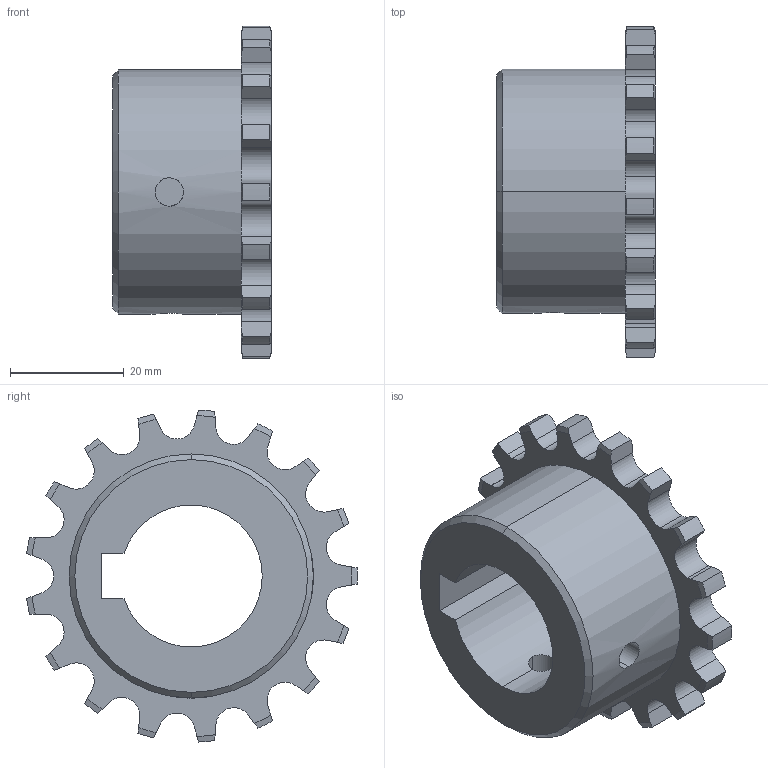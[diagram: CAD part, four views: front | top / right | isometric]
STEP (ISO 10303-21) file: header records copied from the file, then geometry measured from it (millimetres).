
FILE_DESCRIPTION (( 'STEP AP203' ), '1' );
FILE_NAME ('084.803.014.STEP', '2013-01-29T13:21:41', ( 'Alusic' ), ( 'Alusic' ), 'SwSTEP 2.0', 'SolidWorks 2011', '' );
FILE_SCHEMA (( 'CONFIG_CONTROL_DESIGN' ));
Length unit declared in the file: millimetre
Products named in the file (1): 084.803.014
Bounding box: 28 x 58.26 x 58.48 mm (x, y, z)
Volume: 29652.5 mm3; surface area: 10405.4 mm2
Topology: 1 solids, 1 shells, 126 faces, 373 edges, 248 vertices
Faces by surface type: cylinder 50, plane 40, cone 36
Entity records: 4630 total; most frequent: CARTESIAN_POINT 1200, ORIENTED_EDGE 746, DIRECTION 675, EDGE_CURVE 373, AXIS2_PLACEMENT_3D 255, VERTEX_POINT 248, LINE 165, VECTOR 165
